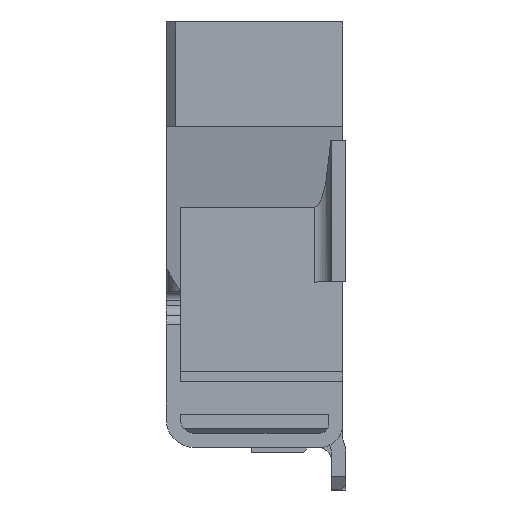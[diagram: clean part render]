
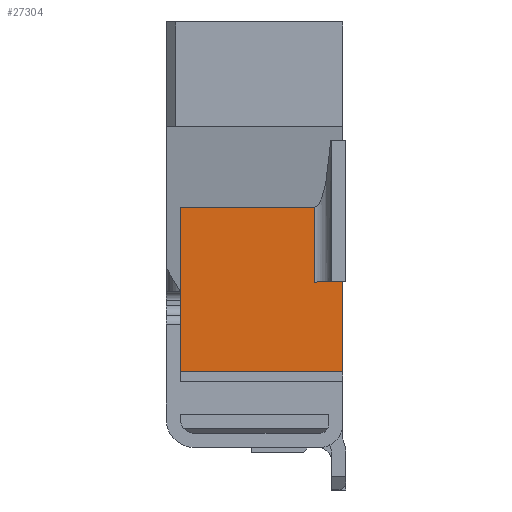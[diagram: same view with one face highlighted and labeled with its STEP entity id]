
A CAD part, left-side view. The second image highlights one B-rep face of the part: STEP entity #27304.
In plain terms, the highlighted planar face has unit normal (-1, 0, 0).
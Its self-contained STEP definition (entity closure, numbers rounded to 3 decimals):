
#410 = VECTOR ( 'NONE', #19300, 1000. ) ;
#1189 = AXIS2_PLACEMENT_3D ( 'NONE', #4040, #5267, #5594 ) ;
#4040 = CARTESIAN_POINT ( 'NONE',  ( -7.235, 0.59, -0.025 ) ) ;
#5242 = PLANE ( 'NONE',  #1189 ) ;
#5252 = FACE_OUTER_BOUND ( 'NONE', #22657, .T. ) ;
#5267 = DIRECTION ( 'NONE',  ( -1., 0., 0. ) ) ;
#5470 = CARTESIAN_POINT ( 'NONE',  ( -7.235, 0.03, 1.018 ) ) ;
#5531 = CARTESIAN_POINT ( 'NONE',  ( -7.235, 0.03, -0.725 ) ) ;
#5594 = DIRECTION ( 'NONE',  ( 0., -1., 0. ) ) ;
#6996 = VERTEX_POINT ( 'NONE', #21257 ) ;
#7502 = VERTEX_POINT ( 'NONE', #19468 ) ;
#7575 = VERTEX_POINT ( 'NONE', #19677 ) ;
#7717 = VERTEX_POINT ( 'NONE', #20096 ) ;
#7836 = VERTEX_POINT ( 'NONE', #20382 ) ;
#7870 = VERTEX_POINT ( 'NONE', #19883 ) ;
#8010 = EDGE_CURVE ( 'NONE', #7502, #6996, #20130, .T. ) ;
#8011 = EDGE_CURVE ( 'NONE', #7575, #7870, #20119, .T. ) ;
#8012 = EDGE_CURVE ( 'NONE', #21019, #11108, #20118, .T. ) ;
#8015 = EDGE_CURVE ( 'NONE', #7836, #7575, #19947, .T. ) ;
#8017 = EDGE_CURVE ( 'NONE', #6996, #7836, #13661, .T. ) ;
#8051 = EDGE_CURVE ( 'NONE', #7870, #21066, #19520, .T. ) ;
#8055 = EDGE_CURVE ( 'NONE', #11108, #7717, #19727, .T. ) ;
#8082 = EDGE_CURVE ( 'NONE', #7717, #7502, #30898, .T. ) ;
#8257 = EDGE_CURVE ( 'NONE', #21066, #21019, #18746, .T. ) ;
#11108 = VERTEX_POINT ( 'NONE', #15159 ) ;
#13610 = VECTOR ( 'NONE', #30846, 1000. ) ;
#13634 = VECTOR ( 'NONE', #20027, 1000. ) ;
#13661 = CIRCLE ( 'NONE', #13814, 0.1 ) ;
#13724 = VECTOR ( 'NONE', #20072, 1000. ) ;
#13756 = VECTOR ( 'NONE', #19836, 1000. ) ;
#13814 = AXIS2_PLACEMENT_3D ( 'NONE', #19786, #19747, #19751 ) ;
#13834 = VECTOR ( 'NONE', #19537, 1000. ) ;
#13912 = VECTOR ( 'NONE', #19984, 1000. ) ;
#13918 = VECTOR ( 'NONE', #19851, 1000. ) ;
#15159 = CARTESIAN_POINT ( 'NONE',  ( -7.235, 1.75, -0.725 ) ) ;
#18746 = LINE ( 'NONE', #19327, #410 ) ;
#19300 = DIRECTION ( 'NONE',  ( 0., 0., -1. ) ) ;
#19327 = CARTESIAN_POINT ( 'NONE',  ( -7.235, 0.03, 1.018 ) ) ;
#19468 = CARTESIAN_POINT ( 'NONE',  ( -7.235, 0.33, 1.018 ) ) ;
#19519 = CARTESIAN_POINT ( 'NONE',  ( -7.235, 17.545, 1.018 ) ) ;
#19520 = LINE ( 'NONE', #19519, #13834 ) ;
#19537 = DIRECTION ( 'NONE',  ( 0., -1., 0. ) ) ;
#19677 = CARTESIAN_POINT ( 'NONE',  ( -7.235, 0.053, 0.225 ) ) ;
#19727 = LINE ( 'NONE', #19855, #13918 ) ;
#19747 = DIRECTION ( 'NONE',  ( 1., 0., 0. ) ) ;
#19751 = DIRECTION ( 'NONE',  ( 0., 0., 1. ) ) ;
#19786 = CARTESIAN_POINT ( 'NONE',  ( -7.235, 0.3, 0.125 ) ) ;
#19836 = DIRECTION ( 'NONE',  ( 0., -1., 0. ) ) ;
#19851 = DIRECTION ( 'NONE',  ( 0., 0., 1. ) ) ;
#19855 = CARTESIAN_POINT ( 'NONE',  ( -7.235, 1.75, 1.018 ) ) ;
#19883 = CARTESIAN_POINT ( 'NONE',  ( -7.235, 0.053, 1.018 ) ) ;
#19929 = CARTESIAN_POINT ( 'NONE',  ( -7.235, 0.33, 0.225 ) ) ;
#19947 = LINE ( 'NONE', #19929, #13756 ) ;
#19984 = DIRECTION ( 'NONE',  ( 0., 1., 0. ) ) ;
#20027 = DIRECTION ( 'NONE',  ( 0., 0., 1. ) ) ;
#20028 = CARTESIAN_POINT ( 'NONE',  ( -7.235, 0.59, -0.725 ) ) ;
#20072 = DIRECTION ( 'NONE',  ( 0., 0., -1. ) ) ;
#20077 = CARTESIAN_POINT ( 'NONE',  ( -7.235, 0.053, 1.725 ) ) ;
#20096 = CARTESIAN_POINT ( 'NONE',  ( -7.235, 1.75, 1.018 ) ) ;
#20118 = LINE ( 'NONE', #20028, #13912 ) ;
#20119 = LINE ( 'NONE', #20077, #13634 ) ;
#20130 = LINE ( 'NONE', #20210, #13724 ) ;
#20210 = CARTESIAN_POINT ( 'NONE',  ( -7.235, 0.33, 1.725 ) ) ;
#20382 = CARTESIAN_POINT ( 'NONE',  ( -7.235, 0.3, 0.225 ) ) ;
#21019 = VERTEX_POINT ( 'NONE', #5531 ) ;
#21066 = VERTEX_POINT ( 'NONE', #5470 ) ;
#21257 = CARTESIAN_POINT ( 'NONE',  ( -7.235, 0.33, 0.22 ) ) ;
#22657 = EDGE_LOOP ( 'NONE', ( #27798, #27859, #28365, #27808, #28122, #28161, #27906, #27917, #28265 ) ) ;
#27304 = ADVANCED_FACE ( 'NONE', ( #5252 ), #5242, .T. ) ;
#27798 = ORIENTED_EDGE ( 'NONE', *, *, #8012, .F. ) ;
#27808 = ORIENTED_EDGE ( 'NONE', *, *, #8011, .F. ) ;
#27859 = ORIENTED_EDGE ( 'NONE', *, *, #8257, .F. ) ;
#27906 = ORIENTED_EDGE ( 'NONE', *, *, #8010, .F. ) ;
#27917 = ORIENTED_EDGE ( 'NONE', *, *, #8082, .F. ) ;
#28122 = ORIENTED_EDGE ( 'NONE', *, *, #8015, .F. ) ;
#28161 = ORIENTED_EDGE ( 'NONE', *, *, #8017, .F. ) ;
#28265 = ORIENTED_EDGE ( 'NONE', *, *, #8055, .F. ) ;
#28365 = ORIENTED_EDGE ( 'NONE', *, *, #8051, .F. ) ;
#30846 = DIRECTION ( 'NONE',  ( 0., -1., 0. ) ) ;
#30895 = CARTESIAN_POINT ( 'NONE',  ( -7.235, 17.545, 1.018 ) ) ;
#30898 = LINE ( 'NONE', #30895, #13610 ) ;
